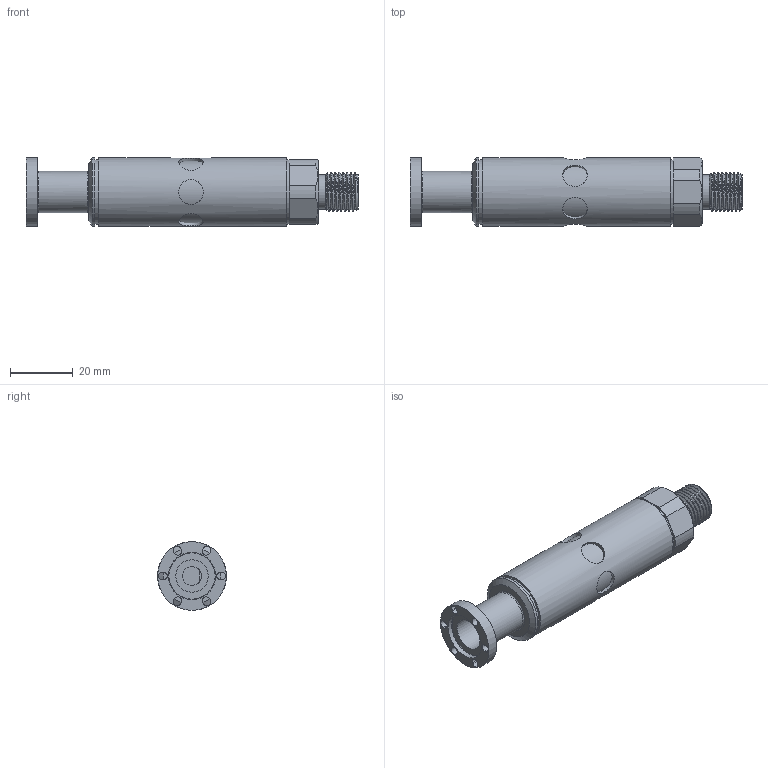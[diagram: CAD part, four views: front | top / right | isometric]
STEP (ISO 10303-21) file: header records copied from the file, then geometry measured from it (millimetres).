
FILE_DESCRIPTION (( 'STEP AP214' ), '1' );
FILE_NAME ('GPSA0223003E.STEP', '2021-06-01T15:16:59', ( '' ), ( '' ), 'SwSTEP 2.0', 'SolidWorks 2019', '' );
FILE_SCHEMA (( 'AUTOMOTIVE_DESIGN' ));
Length unit declared in the file: inch
Products named in the file (1): GPSA0223003E
Bounding box: 106.06 x 21.93 x 21.93 mm (x, y, z)
Volume: 28932.6 mm3; surface area: 10017.9 mm2
Topology: 1 solids, 1 shells, 99 faces, 248 edges, 171 vertices
Faces by surface type: cylinder 49, plane 36, cone 6, torus 5, bspline 3
Full cylindrical faces by diameter (mm): 6.401 x1, 7.9 x6, 10.35 x1, 11.113 x1, 13.15 x1, 13.64 x1, 15.035 x1, 17.704 x1, 20.625 x2, 21.93 x3
Entity records: 7643 total; most frequent: CARTESIAN_POINT 4203, ORIENTED_EDGE 412, DIRECTION 400, EDGE_CURVE 206, AXIS2_PLACEMENT_3D 178, EDGE_LOOP 158, VERTEX_POINT 156, FACE_OUTER_BOUND 122
